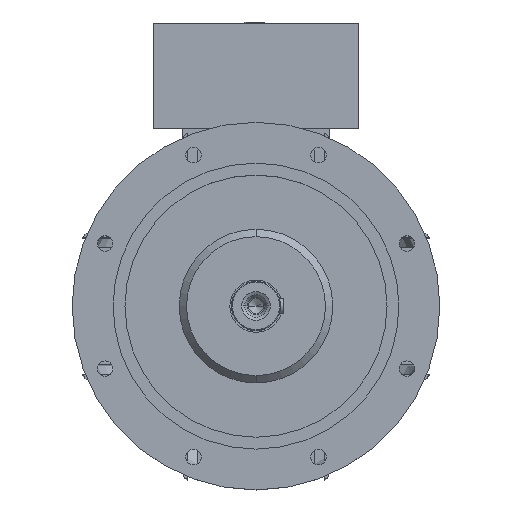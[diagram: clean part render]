
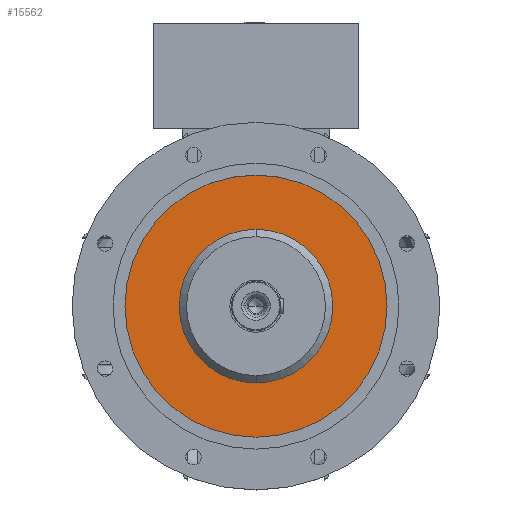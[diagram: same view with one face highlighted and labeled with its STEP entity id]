
A CAD part, top view. The second image highlights one B-rep face of the part: STEP entity #15562.
In plain terms, the highlighted planar face has unit normal (0, 0, 1).
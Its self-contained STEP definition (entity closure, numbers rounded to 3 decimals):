
#1345 = DIRECTION ( 'NONE',  ( 0., 1., 0. ) ) ;
#1589 = CARTESIAN_POINT ( 'NONE',  ( 0., 0., 293.5 ) ) ;
#1674 = VERTEX_POINT ( 'NONE', #15081 ) ;
#1792 = CIRCLE ( 'NONE', #12001, 94. ) ;
#1878 = DIRECTION ( 'NONE',  ( 0., 0., -1. ) ) ;
#1961 = DIRECTION ( 'NONE',  ( 0., 1., 0. ) ) ;
#2268 = EDGE_LOOP ( 'NONE', ( #21575, #15676 ) ) ;
#2911 = EDGE_LOOP ( 'NONE', ( #8524, #18052 ) ) ;
#3763 = CARTESIAN_POINT ( 'NONE',  ( 0., 160.417, 293.5 ) ) ;
#4408 = CIRCLE ( 'NONE', #5319, 94. ) ;
#4831 = CIRCLE ( 'NONE', #19118, 160.417 ) ;
#4840 = DIRECTION ( 'NONE',  ( 0., 0., 1. ) ) ;
#5319 = AXIS2_PLACEMENT_3D ( 'NONE', #1589, #15518, #1345 ) ;
#6272 = VERTEX_POINT ( 'NONE', #16787 ) ;
#6640 = FACE_OUTER_BOUND ( 'NONE', #2268, .T. ) ;
#7215 = VERTEX_POINT ( 'NONE', #24675 ) ;
#8524 = ORIENTED_EDGE ( 'NONE', *, *, #11899, .T. ) ;
#8537 = CIRCLE ( 'NONE', #21252, 160.417 ) ;
#8824 = EDGE_CURVE ( 'NONE', #7215, #1674, #8537, .T. ) ;
#11786 = CARTESIAN_POINT ( 'NONE',  ( 0., 0., 293.5 ) ) ;
#11899 = EDGE_CURVE ( 'NONE', #16410, #6272, #4408, .T. ) ;
#12001 = AXIS2_PLACEMENT_3D ( 'NONE', #13874, #1878, #1961 ) ;
#13874 = CARTESIAN_POINT ( 'NONE',  ( 0., 0., 293.5 ) ) ;
#14206 = AXIS2_PLACEMENT_3D ( 'NONE', #3763, #25688, #19557 ) ;
#15081 = CARTESIAN_POINT ( 'NONE',  ( -160.417, 0., 293.5 ) ) ;
#15518 = DIRECTION ( 'NONE',  ( 0., 0., -1. ) ) ;
#15562 = ADVANCED_FACE ( 'NONE', ( #6640, #17527 ), #21720, .T. ) ;
#15676 = ORIENTED_EDGE ( 'NONE', *, *, #8824, .T. ) ;
#16410 = VERTEX_POINT ( 'NONE', #18981 ) ;
#16724 = CARTESIAN_POINT ( 'NONE',  ( 0., 0., 293.5 ) ) ;
#16787 = CARTESIAN_POINT ( 'NONE',  ( 0., -94., 293.5 ) ) ;
#17527 = FACE_BOUND ( 'NONE', #2911, .T. ) ;
#18052 = ORIENTED_EDGE ( 'NONE', *, *, #22003, .T. ) ;
#18115 = EDGE_CURVE ( 'NONE', #1674, #7215, #4831, .T. ) ;
#18981 = CARTESIAN_POINT ( 'NONE',  ( 0., 94., 293.5 ) ) ;
#19118 = AXIS2_PLACEMENT_3D ( 'NONE', #11786, #19461, #19619 ) ;
#19461 = DIRECTION ( 'NONE',  ( 0., 0., 1. ) ) ;
#19557 = DIRECTION ( 'NONE',  ( 1., 0., 0. ) ) ;
#19619 = DIRECTION ( 'NONE',  ( -1., 0., 0. ) ) ;
#20977 = DIRECTION ( 'NONE',  ( -1., 0., 0. ) ) ;
#21252 = AXIS2_PLACEMENT_3D ( 'NONE', #16724, #4840, #20977 ) ;
#21575 = ORIENTED_EDGE ( 'NONE', *, *, #18115, .T. ) ;
#21720 = PLANE ( 'NONE',  #14206 ) ;
#22003 = EDGE_CURVE ( 'NONE', #6272, #16410, #1792, .T. ) ;
#24675 = CARTESIAN_POINT ( 'NONE',  ( 160.417, 0., 293.5 ) ) ;
#25688 = DIRECTION ( 'NONE',  ( 0., 0., 1. ) ) ;
